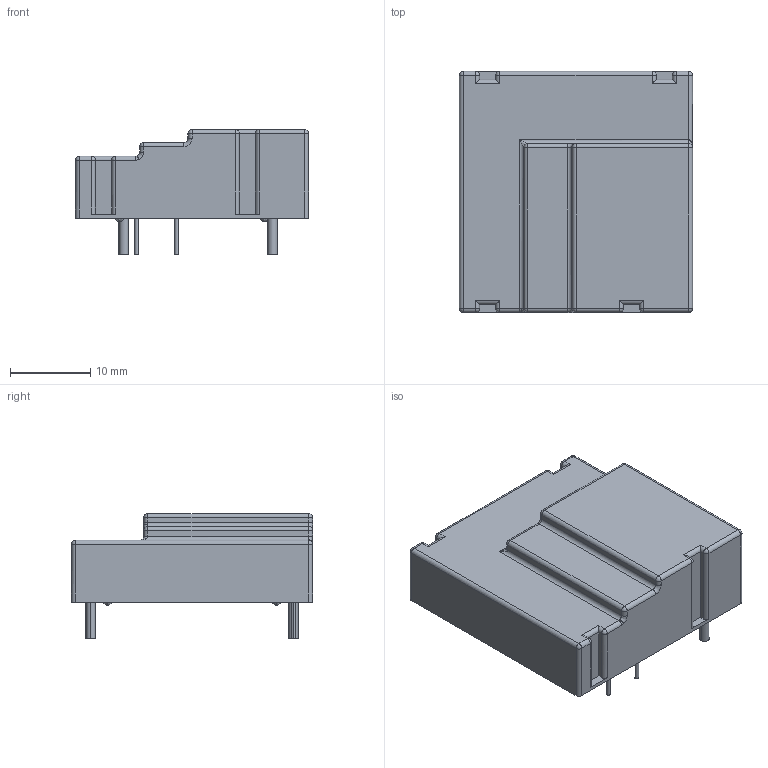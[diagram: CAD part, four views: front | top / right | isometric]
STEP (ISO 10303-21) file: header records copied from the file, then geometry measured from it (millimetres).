
FILE_DESCRIPTION((''),'2;1');
FILE_NAME('TFMOV25SL-101-20200811','2020-08-11T',('SET-01114'),(''),'PRO/ENGINEER BY PARAMETRIC TECHNOLOGY CORPORATION, 2012310','PRO/ENGINEER BY PARAMETRIC TECHNOLOGY CORPORATION, 2012310','');
FILE_SCHEMA(('CONFIG_CONTROL_DESIGN','SHAPE_APPEARANCE_LAYERS_GROUPS'));
Length unit declared in the file: millimetre
Products named in the file (1): TFMOV25SL-101-20200811
Bounding box: 29 x 30 x 15.5 mm (x, y, z)
Volume: 2314.1 mm3; surface area: 5362.2 mm2
Topology: 1 solids, 2 shells, 212 faces, 615 edges, 385 vertices
Faces by surface type: cylinder 93, plane 70, sphere 29, bspline 13, torus 7
Entity records: 9113 total; most frequent: CARTESIAN_POINT 1783, DIRECTION 1199, ORIENTED_EDGE 1166, PRESENTATION_STYLE_ASSIGNMENT 584, STYLED_ITEM 584, CURVE_STYLE 583, EDGE_CURVE 583, AXIS2_PLACEMENT_3D 466
